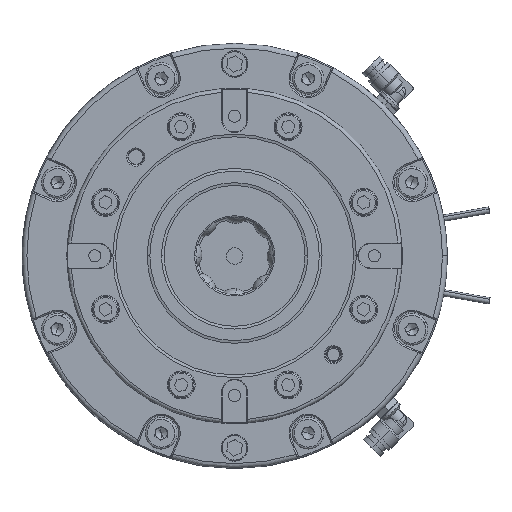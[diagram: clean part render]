
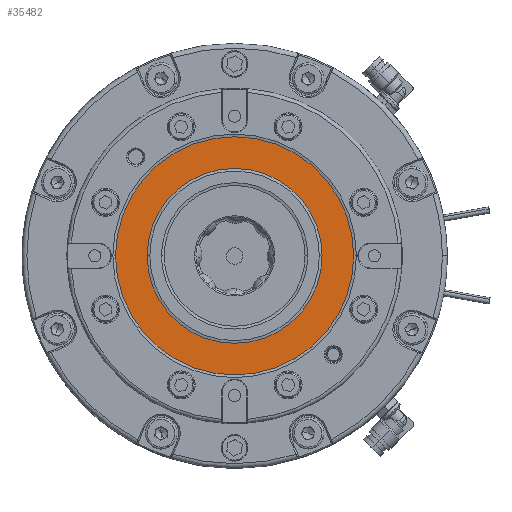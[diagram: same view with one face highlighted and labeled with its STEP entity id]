
A CAD part, top view. The second image highlights one B-rep face of the part: STEP entity #35482.
In plain terms, the highlighted planar face has unit normal (0, 0, 1) as drawn and (0, -1, 0) by its records, which use the part's own axes.
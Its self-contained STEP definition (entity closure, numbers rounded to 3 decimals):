
#5145 = DIRECTION ( 'NONE',  ( 0., 0., 1. ) ) ;
#8318 = ORIENTED_EDGE ( 'NONE', *, *, #68670, .T. ) ;
#8588 = AXIS2_PLACEMENT_3D ( 'NONE', #53348, #63107, #92417 ) ;
#9182 = EDGE_CURVE ( 'NONE', #60110, #22861, #38600, .T. ) ;
#12549 = AXIS2_PLACEMENT_3D ( 'NONE', #14230, #100839, #90750 ) ;
#14230 = CARTESIAN_POINT ( 'NONE',  ( -89.169, 12.208, 137.8 ) ) ;
#22861 = VERTEX_POINT ( 'NONE', #29879 ) ;
#23170 = ORIENTED_EDGE ( 'NONE', *, *, #9182, .F. ) ;
#24533 = CARTESIAN_POINT ( 'NONE',  ( -89.169, 12.208, 137.8 ) ) ;
#25554 = CARTESIAN_POINT ( 'NONE',  ( -89.169, 12.208, 101.8 ) ) ;
#28270 = ORIENTED_EDGE ( 'NONE', *, *, #38922, .T. ) ;
#29879 = CARTESIAN_POINT ( 'NONE',  ( -89.169, 12.208, 186.8 ) ) ;
#33641 = DIRECTION ( 'NONE',  ( 0., 0., -1. ) ) ;
#35482 = ADVANCED_FACE ( 'NONE', ( #75114, #120209 ), #82873, .T. ) ;
#38600 = CIRCLE ( 'NONE', #12549, 49. ) ;
#38922 = EDGE_CURVE ( 'NONE', #105612, #103650, #91702, .T. ) ;
#39699 = EDGE_LOOP ( 'NONE', ( #23170, #109036 ) ) ;
#49987 = AXIS2_PLACEMENT_3D ( 'NONE', #24533, #90977, #73301 ) ;
#53348 = CARTESIAN_POINT ( 'NONE',  ( -89.169, 12.208, 137.8 ) ) ;
#57549 = AXIS2_PLACEMENT_3D ( 'NONE', #100547, #111895, #5145 ) ;
#60110 = VERTEX_POINT ( 'NONE', #86973 ) ;
#60387 = EDGE_LOOP ( 'NONE', ( #8318, #28270 ) ) ;
#62312 = CIRCLE ( 'NONE', #8588, 36. ) ;
#63107 = DIRECTION ( 'NONE',  ( 0., 1., 0. ) ) ;
#63801 = CARTESIAN_POINT ( 'NONE',  ( -89.169, 12.208, 173.8 ) ) ;
#68670 = EDGE_CURVE ( 'NONE', #103650, #105612, #62312, .T. ) ;
#72535 = CIRCLE ( 'NONE', #57549, 49. ) ;
#73301 = DIRECTION ( 'NONE',  ( 0., 0., 1. ) ) ;
#75114 = FACE_OUTER_BOUND ( 'NONE', #39699, .T. ) ;
#78677 = EDGE_CURVE ( 'NONE', #22861, #60110, #72535, .T. ) ;
#82873 = PLANE ( 'NONE',  #98560 ) ;
#86973 = CARTESIAN_POINT ( 'NONE',  ( -89.169, 12.208, 88.8 ) ) ;
#90750 = DIRECTION ( 'NONE',  ( 0., 0., 1. ) ) ;
#90977 = DIRECTION ( 'NONE',  ( 0., 1., 0. ) ) ;
#91702 = CIRCLE ( 'NONE', #49987, 36. ) ;
#92417 = DIRECTION ( 'NONE',  ( 0., 0., 1. ) ) ;
#98560 = AXIS2_PLACEMENT_3D ( 'NONE', #121498, #120248, #33641 ) ;
#100547 = CARTESIAN_POINT ( 'NONE',  ( -89.169, 12.208, 137.8 ) ) ;
#100839 = DIRECTION ( 'NONE',  ( 0., 1., 0. ) ) ;
#103650 = VERTEX_POINT ( 'NONE', #63801 ) ;
#105612 = VERTEX_POINT ( 'NONE', #25554 ) ;
#109036 = ORIENTED_EDGE ( 'NONE', *, *, #78677, .F. ) ;
#111895 = DIRECTION ( 'NONE',  ( 0., 1., 0. ) ) ;
#120209 = FACE_BOUND ( 'NONE', #60387, .T. ) ;
#120248 = DIRECTION ( 'NONE',  ( 0., -1., 0. ) ) ;
#121498 = CARTESIAN_POINT ( 'NONE',  ( -138.169, 12.208, 137.8 ) ) ;
